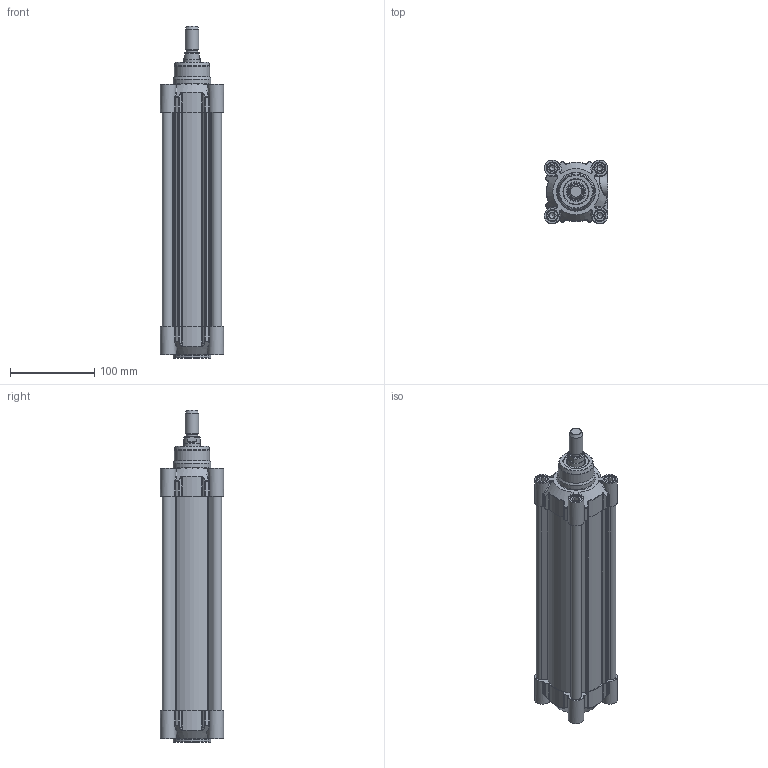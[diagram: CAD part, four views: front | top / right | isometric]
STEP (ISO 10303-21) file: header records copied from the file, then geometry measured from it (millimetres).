
FILE_DESCRIPTION(/* description */ ('CILINDRO D.E. MAGNETICO AMMORTIZZATO ISO 15552'),/* implementation_level */ '2;1');
FILE_NAME(/* name */ 'T:\Archivio Inventor\- 00 NUOVI STP PER SITO CON STELO CHE SI MUOVE\SERIE H - U\SERIE HDM\HDM063 - TUBO NUOVO\HDM063.200.GS.M.stp',/* time_stamp */ '2018-07-30T14:35:50+02:00',/* author */ ('carlo.corazza'),/* organization */ (''),/* preprocessor_version */ 'ST-DEVELOPER v16.5',/* originating_system */ 'Autodesk Inventor 2017',/* authorisation */ '');
FILE_SCHEMA (('AUTOMOTIVE_DESIGN { 1 0 10303 214 3 1 1 }'));
Length unit declared in the file: millimetre
Products named in the file (5): HDM063.200.GS.M; TP; TA; STELO-200; CORPO-200
Assembly tree (4 placements, depth 2):
  HDM063.200.GS.M
    TP
    TA
    STELO-200
    CORPO-200
Bounding box: 75 x 75 x 394 mm (x, y, z)
Volume: 615638.8 mm3; surface area: 287091 mm2
Topology: 4 solids, 27 shells, 1241 faces, 2936 edges, 1818 vertices
Faces by surface type: plane 368, cylinder 297, bspline 288, torus 108, cone 106, sphere 74
Full cylindrical faces by diameter (mm): 3 x2, 3.4 x2, 4.8 x2, 5.25 x2, 6.647 x8, 8 x8, 8.3 x12, 9.8 x4, 9.9 x2, 10 x6, 12 x3, 13 x8, 13.3 x8, 13.5 x1, 14.95 x2, 16 x1, 19.5 x1, 20 x1, 20.8 x1, 20.847 x1, 24 x1, 26 x2, 30 x3, 42 x1, 45 x2, 63 x1
Entity records: 40768 total; most frequent: CARTESIAN_POINT 13071, ORIENTED_EDGE 5326, DIRECTION 5100, EDGE_CURVE 2663, AXIS2_PLACEMENT_3D 2037, VERTEX_POINT 1763, EDGE_LOOP 1576, STYLED_ITEM 1245
